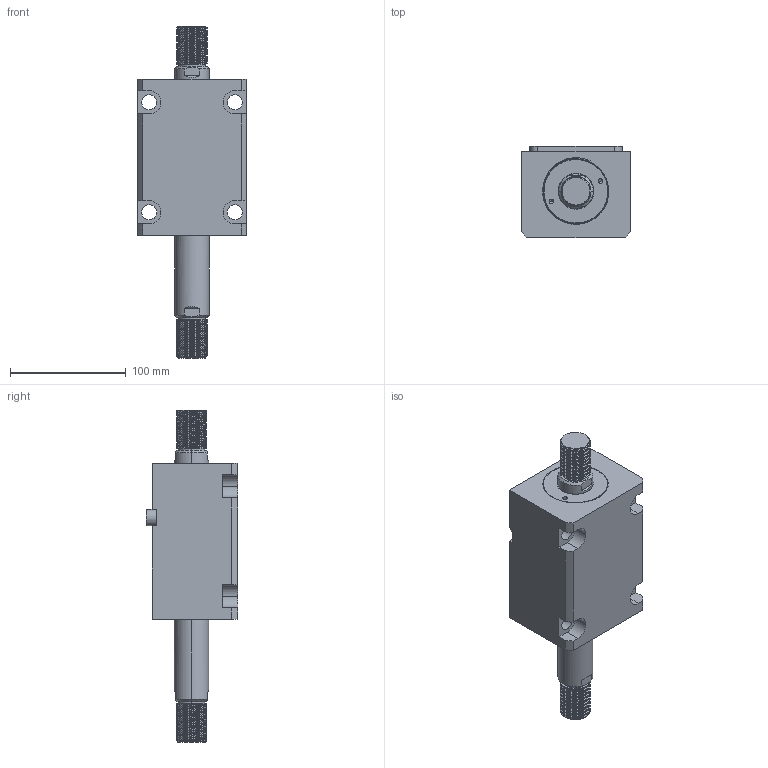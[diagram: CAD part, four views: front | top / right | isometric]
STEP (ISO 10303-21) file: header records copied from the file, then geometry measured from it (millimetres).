
FILE_DESCRIPTION (( 'STEP AP203' ), '1' );
FILE_NAME ('CHTB-LWM50-60W.STEP', '2018-05-22T07:40:24', ( '' ), ( '' ), 'SwSTEP 2.0', 'SolidWorks 2015', '' );
FILE_SCHEMA (( 'CONFIG_CONTROL_DESIGN' ));
Length unit declared in the file: millimetre
Products named in the file (4): 活塞杆LWM50-60W; CHTB-LWM50-60W; CHTM-SDMA50QG; 掛极LWM50-60W
Assembly tree (3 placements, depth 2):
  CHTB-LWM50-60W
    掛极LWM50-60W
    CHTM-SDMA50QG
    活塞杆LWM50-60W
Bounding box: 94 x 79 x 287 mm (x, y, z)
Volume: 902137.4 mm3; surface area: 140391.9 mm2
Topology: 3 solids, 3 shells, 302 faces, 837 edges, 557 vertices
Faces by surface type: cylinder 188, plane 62, cone 18, bspline 18, torus 16
Entity records: 19248 total; most frequent: CARTESIAN_POINT 11864, ORIENTED_EDGE 1666, DIRECTION 1265, EDGE_CURVE 833, VERTEX_POINT 557, AXIS2_PLACEMENT_3D 483, EDGE_LOOP 338, ADVANCED_FACE 302
